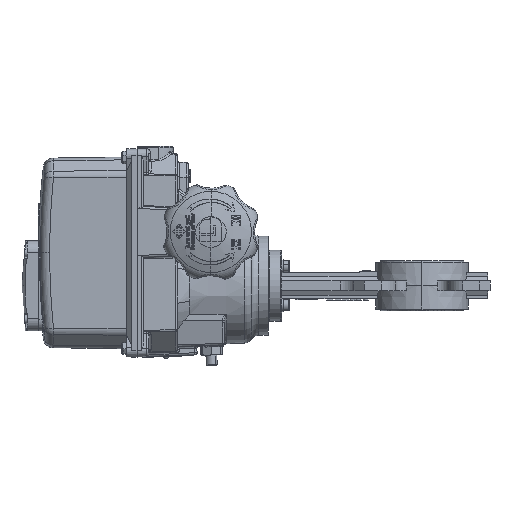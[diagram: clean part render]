
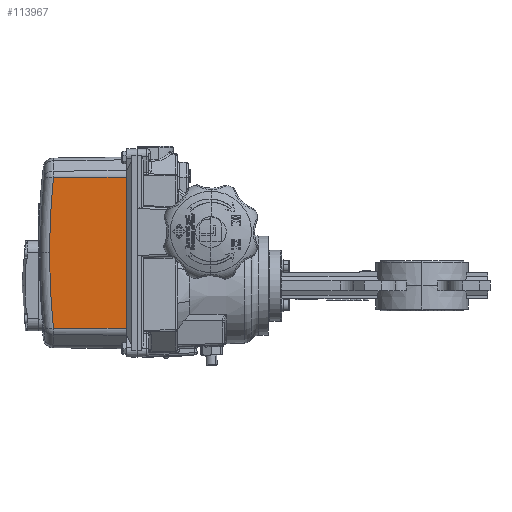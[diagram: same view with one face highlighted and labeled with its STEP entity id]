
A CAD part, left-side view. The second image highlights one B-rep face of the part: STEP entity #113967.
In plain terms, the highlighted planar face has unit normal (-1, 0.013, 0).
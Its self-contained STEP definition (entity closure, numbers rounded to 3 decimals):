
#1294 = DIRECTION ( 'NONE',  ( -0.013, -1., -0.006 ) ) ;
#7241 = CARTESIAN_POINT ( 'NONE',  ( -65.589, -349.385, 29.913 ) ) ;
#7434 = PLANE ( 'NONE',  #106343 ) ;
#13602 = DIRECTION ( 'NONE',  ( 0., 0., 1. ) ) ;
#19867 = DIRECTION ( 'NONE',  ( 0.013, 1., 0. ) ) ;
#22034 = EDGE_CURVE ( 'NONE', #37911, #69809, #61401, .T. ) ;
#23443 = EDGE_CURVE ( 'NONE', #101080, #37911, #62753, .T. ) ;
#25156 = DIRECTION ( 'NONE',  ( -1., 0.013, 0. ) ) ;
#28709 = DIRECTION ( 'NONE',  ( -1., 0.013, 0. ) ) ;
#34306 = LINE ( 'NONE', #105732, #81246 ) ;
#35802 = LINE ( 'NONE', #66458, #62074 ) ;
#37911 = VERTEX_POINT ( 'NONE', #42377 ) ;
#39312 = VECTOR ( 'NONE', #57868, 1000. ) ;
#39978 = EDGE_LOOP ( 'NONE', ( #44165, #45313, #111613, #76818, #86539 ) ) ;
#42377 = CARTESIAN_POINT ( 'NONE',  ( -56.388, 336.051, 98.489 ) ) ;
#44165 = ORIENTED_EDGE ( 'NONE', *, *, #82361, .T. ) ;
#45313 = ORIENTED_EDGE ( 'NONE', *, *, #81198, .T. ) ;
#50851 = DIRECTION ( 'NONE',  ( -1., 0.013, 0. ) ) ;
#51724 = CARTESIAN_POINT ( 'NONE',  ( -56.388, 336.051, -38.663 ) ) ;
#56091 = CARTESIAN_POINT ( 'NONE',  ( -57.279, 269.7, -39.032 ) ) ;
#57868 = DIRECTION ( 'NONE',  ( 0.013, 1., -0.006 ) ) ;
#59363 = CARTESIAN_POINT ( 'NONE',  ( -56.342, 339.473, 29.913 ) ) ;
#60904 = AXIS2_PLACEMENT_3D ( 'NONE', #7241, #50851, #112426 ) ;
#61401 = CIRCLE ( 'NONE', #65109, 688.92 ) ;
#62074 = VECTOR ( 'NONE', #13602, 1000. ) ;
#62753 = LINE ( 'NONE', #101426, #39312 ) ;
#63362 = FACE_OUTER_BOUND ( 'NONE', #39978, .T. ) ;
#64231 = CARTESIAN_POINT ( 'NONE',  ( -65.589, -349.385, 29.913 ) ) ;
#65109 = AXIS2_PLACEMENT_3D ( 'NONE', #64231, #28709, #19867 ) ;
#66458 = CARTESIAN_POINT ( 'NONE',  ( -57.279, 269.7, -41.573 ) ) ;
#69809 = VERTEX_POINT ( 'NONE', #59363 ) ;
#71875 = EDGE_CURVE ( 'NONE', #69809, #101855, #73988, .T. ) ;
#73988 = CIRCLE ( 'NONE', #60904, 688.92 ) ;
#76818 = ORIENTED_EDGE ( 'NONE', *, *, #22034, .T. ) ;
#81198 = EDGE_CURVE ( 'NONE', #101058, #101080, #35802, .T. ) ;
#81246 = VECTOR ( 'NONE', #1294, 1000. ) ;
#82361 = EDGE_CURVE ( 'NONE', #101855, #101058, #34306, .T. ) ;
#85415 = DIRECTION ( 'NONE',  ( 0.013, 1., 0. ) ) ;
#86539 = ORIENTED_EDGE ( 'NONE', *, *, #71875, .T. ) ;
#92383 = CARTESIAN_POINT ( 'NONE',  ( -57.279, 269.7, 98.858 ) ) ;
#94249 = CARTESIAN_POINT ( 'NONE',  ( -57.412, 259.734, -41.573 ) ) ;
#101058 = VERTEX_POINT ( 'NONE', #56091 ) ;
#101080 = VERTEX_POINT ( 'NONE', #92383 ) ;
#101426 = CARTESIAN_POINT ( 'NONE',  ( -57.411, 259.826, 98.912 ) ) ;
#101855 = VERTEX_POINT ( 'NONE', #51724 ) ;
#105732 = CARTESIAN_POINT ( 'NONE',  ( -57.413, 259.72, -39.088 ) ) ;
#106343 = AXIS2_PLACEMENT_3D ( 'NONE', #94249, #25156, #85415 ) ;
#111613 = ORIENTED_EDGE ( 'NONE', *, *, #23443, .T. ) ;
#112426 = DIRECTION ( 'NONE',  ( 0.013, 1., 0. ) ) ;
#113967 = ADVANCED_FACE ( 'NONE', ( #63362 ), #7434, .T. ) ;
